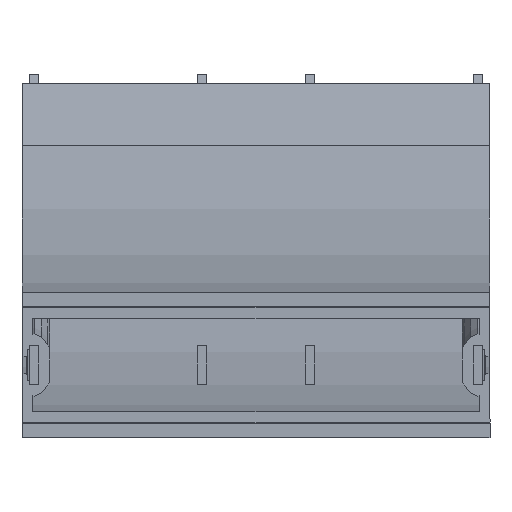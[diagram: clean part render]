
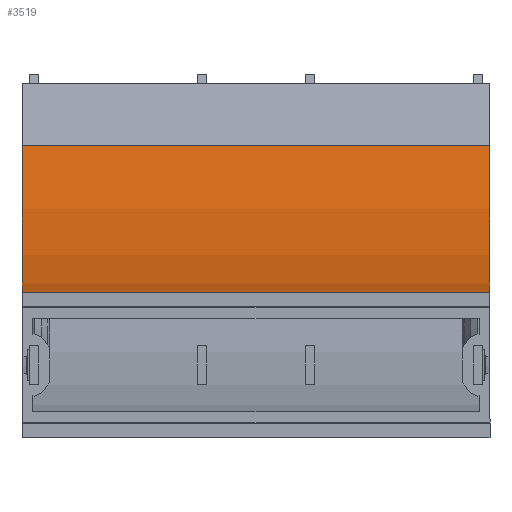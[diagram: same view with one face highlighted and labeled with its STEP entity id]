
A CAD part, front view. The second image highlights one B-rep face of the part: STEP entity #3519.
In plain terms, the highlighted cylindrical face has radius 703.5 mm (diameter 1407 mm), a partial arc.
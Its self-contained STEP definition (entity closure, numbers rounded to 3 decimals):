
#127 = VERTEX_POINT ( 'NONE', #10179 ) ;
#186 = VERTEX_POINT ( 'NONE', #1381 ) ;
#218 = ORIENTED_EDGE ( 'NONE', *, *, #4080, .F. ) ;
#608 = CYLINDRICAL_SURFACE ( 'NONE', #6885, 703.5 ) ;
#637 = VECTOR ( 'NONE', #7330, 1000. ) ;
#1065 = CARTESIAN_POINT ( 'NONE',  ( -150., 80., 46.5 ) ) ;
#1214 = CARTESIAN_POINT ( 'NONE',  ( -150., 80., 750. ) ) ;
#1263 = DIRECTION ( 'NONE',  ( -1., 0., 0. ) ) ;
#1381 = CARTESIAN_POINT ( 'NONE',  ( -150., 80., 46.5 ) ) ;
#1463 = CARTESIAN_POINT ( 'NONE',  ( 150., 431.75, 140.751 ) ) ;
#1493 = VECTOR ( 'NONE', #1263, 1000. ) ;
#2347 = DIRECTION ( 'NONE',  ( 0., 0.5, -0.866 ) ) ;
#2401 = ORIENTED_EDGE ( 'NONE', *, *, #9809, .T. ) ;
#2631 = VERTEX_POINT ( 'NONE', #6953 ) ;
#3039 = DIRECTION ( 'NONE',  ( 0., 0., 1. ) ) ;
#3132 = DIRECTION ( 'NONE',  ( -1., 0., 0. ) ) ;
#3519 = ADVANCED_FACE ( 'NONE', ( #5308 ), #608, .F. ) ;
#3659 = DIRECTION ( 'NONE',  ( -1., 0., 0. ) ) ;
#3660 = CARTESIAN_POINT ( 'NONE',  ( 0., 80., 750. ) ) ;
#4080 = EDGE_CURVE ( 'NONE', #8681, #127, #8042, .T. ) ;
#4944 = LINE ( 'NONE', #5094, #637 ) ;
#5078 = EDGE_CURVE ( 'NONE', #8681, #2631, #4944, .T. ) ;
#5094 = CARTESIAN_POINT ( 'NONE',  ( -150., 431.75, 140.751 ) ) ;
#5252 = DIRECTION ( 'NONE',  ( -1., 0., 0. ) ) ;
#5308 = FACE_OUTER_BOUND ( 'NONE', #8425, .T. ) ;
#6383 = ORIENTED_EDGE ( 'NONE', *, *, #5078, .T. ) ;
#6539 = CIRCLE ( 'NONE', #6866, 703.5 ) ;
#6761 = LINE ( 'NONE', #1065, #1493 ) ;
#6817 = DIRECTION ( 'NONE',  ( 0., 0.5, -0.866 ) ) ;
#6866 = AXIS2_PLACEMENT_3D ( 'NONE', #1214, #3659, #6817 ) ;
#6869 = EDGE_CURVE ( 'NONE', #127, #186, #6761, .T. ) ;
#6885 = AXIS2_PLACEMENT_3D ( 'NONE', #3660, #5252, #3039 ) ;
#6953 = CARTESIAN_POINT ( 'NONE',  ( -150., 431.75, 140.751 ) ) ;
#7330 = DIRECTION ( 'NONE',  ( -1., 0., 0. ) ) ;
#8042 = CIRCLE ( 'NONE', #9201, 703.5 ) ;
#8425 = EDGE_LOOP ( 'NONE', ( #9575, #218, #6383, #2401 ) ) ;
#8681 = VERTEX_POINT ( 'NONE', #1463 ) ;
#9201 = AXIS2_PLACEMENT_3D ( 'NONE', #9444, #3132, #2347 ) ;
#9444 = CARTESIAN_POINT ( 'NONE',  ( 150., 80., 750. ) ) ;
#9575 = ORIENTED_EDGE ( 'NONE', *, *, #6869, .F. ) ;
#9809 = EDGE_CURVE ( 'NONE', #2631, #186, #6539, .T. ) ;
#10179 = CARTESIAN_POINT ( 'NONE',  ( 150., 80., 46.5 ) ) ;
